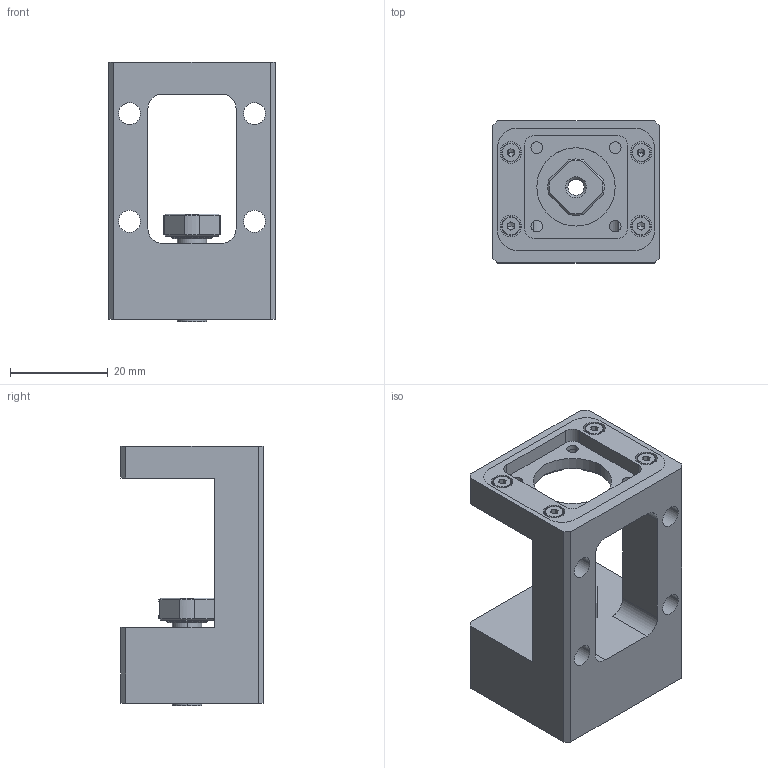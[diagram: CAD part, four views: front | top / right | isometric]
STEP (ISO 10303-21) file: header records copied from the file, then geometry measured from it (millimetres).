
FILE_DESCRIPTION (( 'STEP AP214' ), '1' );
FILE_NAME ('E-SBU-4.20-P5.STEP', '2026-03-25T06:16:49', ( '决扁浅何厘' ), ( '' ), 'SwSTEP 2.0', 'SolidWorks 2024', '' );
FILE_SCHEMA (( 'AUTOMOTIVE_DESIGN' ));
Length unit declared in the file: millimetre
Products named in the file (8): 20 BRACKET; E-SBU-4-P5 HOUSING; 4-P5 COLLAR; AC4-12DF; socket head cap screw_ks_KS 1003 - M2 x 4 x 4-N; E-SBU-4.20-P5; 4-P5 COVER; RN4
Assembly tree (12 placements, depth 2):
  E-SBU-4.20-P5
    E-SBU-4-P5 HOUSING
    AC4-12DF  x2
    4-P5 COVER
    20 BRACKET
    socket head cap screw_ks_KS 1003 - M2 x 4 x 4-N  x4
    4-P5 COLLAR  x2
    RN4
Bounding box: 34 x 29 x 53 mm (x, y, z)
Volume: 23447.4 mm3; surface area: 14505.9 mm2
Topology: 32 solids, 32 shells, 471 faces, 1129 edges, 703 vertices
Faces by surface type: plane 167, cylinder 164, cone 56, torus 52, sphere 32
Entity records: 10202 total; most frequent: CARTESIAN_POINT 2012, DIRECTION 1758, ORIENTED_EDGE 1514, EDGE_CURVE 757, AXIS2_PLACEMENT_3D 692, VERTEX_POINT 486, EDGE_LOOP 397, VECTOR 374
